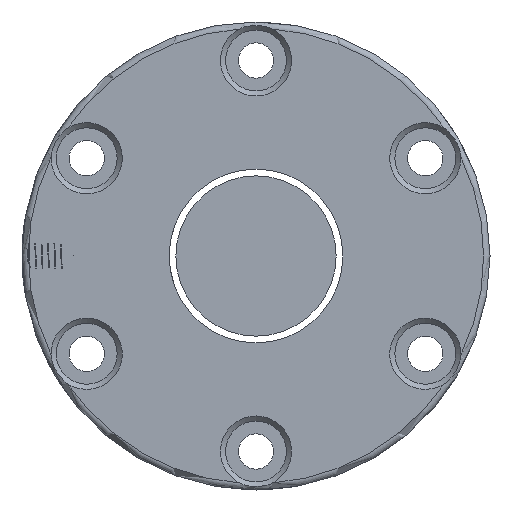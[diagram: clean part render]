
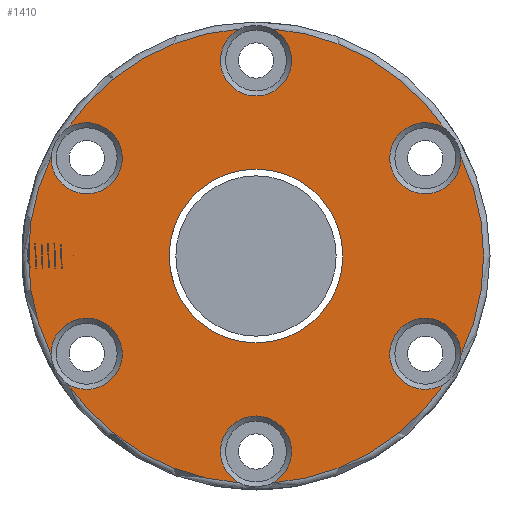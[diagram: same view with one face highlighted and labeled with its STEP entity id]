
A CAD part, left-side view. The second image highlights one B-rep face of the part: STEP entity #1410.
In plain terms, the highlighted planar face has unit normal (-1, 0, 0).
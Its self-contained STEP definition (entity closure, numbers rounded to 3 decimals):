
#11 = ORIENTED_EDGE ( 'NONE', *, *, #464, .T. ) ;
#21 = EDGE_CURVE ( 'NONE', #808, #1139, #2225, .T. ) ;
#86 = ORIENTED_EDGE ( 'NONE', *, *, #314, .T. ) ;
#93 = CARTESIAN_POINT ( 'NONE',  ( -55., -2.597, 35.405 ) ) ;
#160 = PLANE ( 'NONE',  #600 ) ;
#253 = DIRECTION ( 'NONE',  ( -1., 0., 0. ) ) ;
#314 = EDGE_CURVE ( 'NONE', #429, #2449, #319, .T. ) ;
#319 = CIRCLE ( 'NONE', #619, 5.55 ) ;
#351 = DIRECTION ( 'NONE',  ( 0., 0., 1. ) ) ;
#364 = EDGE_CURVE ( 'NONE', #2708, #670, #1935, .T. ) ;
#370 = DIRECTION ( 'NONE',  ( 0., 0., 1. ) ) ;
#377 = EDGE_LOOP ( 'NONE', ( #1014, #11, #2259, #1284, #2180, #1409, #86, #2125, #2987, #632, #2605, #3033 ) ) ;
#394 = FACE_BOUND ( 'NONE', #1324, .T. ) ;
#402 = EDGE_CURVE ( 'NONE', #1139, #1914, #2267, .T. ) ;
#413 = CARTESIAN_POINT ( 'NONE',  ( -55., 36.5, 0. ) ) ;
#429 = VERTEX_POINT ( 'NONE', #828 ) ;
#464 = EDGE_CURVE ( 'NONE', #1914, #2063, #2711, .T. ) ;
#492 = DIRECTION ( 'NONE',  ( 0., 0., -1. ) ) ;
#535 = DIRECTION ( 'NONE',  ( 1., 0., 0. ) ) ;
#573 = EDGE_CURVE ( 'NONE', #756, #3018, #1435, .T. ) ;
#588 = CARTESIAN_POINT ( 'NONE',  ( -55., 29.363, 19.952 ) ) ;
#600 = AXIS2_PLACEMENT_3D ( 'NONE', #413, #1118, #2083 ) ;
#604 = DIRECTION ( 'NONE',  ( 0., 0., 1. ) ) ;
#614 = VERTEX_POINT ( 'NONE', #2985 ) ;
#619 = AXIS2_PLACEMENT_3D ( 'NONE', #1572, #640, #351 ) ;
#624 = CARTESIAN_POINT ( 'NONE',  ( -55., 0., 0. ) ) ;
#632 = ORIENTED_EDGE ( 'NONE', *, *, #701, .T. ) ;
#640 = DIRECTION ( 'NONE',  ( 1., 0., 0. ) ) ;
#658 = CIRCLE ( 'NONE', #2113, 5.55 ) ;
#670 = VERTEX_POINT ( 'NONE', #1816 ) ;
#676 = AXIS2_PLACEMENT_3D ( 'NONE', #2564, #253, #2401 ) ;
#679 = AXIS2_PLACEMENT_3D ( 'NONE', #1929, #1883, #2372 ) ;
#701 = EDGE_CURVE ( 'NONE', #3018, #614, #1831, .T. ) ;
#704 = CARTESIAN_POINT ( 'NONE',  ( -55., -29.363, -19.952 ) ) ;
#756 = VERTEX_POINT ( 'NONE', #704 ) ;
#790 = CARTESIAN_POINT ( 'NONE',  ( -55., 0., -13.55 ) ) ;
#808 = VERTEX_POINT ( 'NONE', #2335 ) ;
#814 = DIRECTION ( 'NONE',  ( 0., 0., 1. ) ) ;
#828 = CARTESIAN_POINT ( 'NONE',  ( -55., 2.597, -35.405 ) ) ;
#866 = CARTESIAN_POINT ( 'NONE',  ( -55., 0., 0. ) ) ;
#883 = EDGE_CURVE ( 'NONE', #2449, #756, #1637, .T. ) ;
#904 = CIRCLE ( 'NONE', #2900, 5.55 ) ;
#920 = CARTESIAN_POINT ( 'NONE',  ( -55., 26.414, -15.25 ) ) ;
#973 = FACE_OUTER_BOUND ( 'NONE', #377, .T. ) ;
#990 = CARTESIAN_POINT ( 'NONE',  ( -55., -26.414, 15.25 ) ) ;
#1005 = CARTESIAN_POINT ( 'NONE',  ( -55., 26.414, 15.25 ) ) ;
#1014 = ORIENTED_EDGE ( 'NONE', *, *, #402, .T. ) ;
#1023 = AXIS2_PLACEMENT_3D ( 'NONE', #2727, #1556, #1672 ) ;
#1060 = DIRECTION ( 'NONE',  ( 1., 0., 0. ) ) ;
#1071 = DIRECTION ( 'NONE',  ( -1., 0., 0. ) ) ;
#1073 = DIRECTION ( 'NONE',  ( 1., 0., 0. ) ) ;
#1118 = DIRECTION ( 'NONE',  ( -1., 0., 0. ) ) ;
#1120 = AXIS2_PLACEMENT_3D ( 'NONE', #624, #2946, #814 ) ;
#1139 = VERTEX_POINT ( 'NONE', #93 ) ;
#1161 = AXIS2_PLACEMENT_3D ( 'NONE', #1005, #535, #1569 ) ;
#1192 = VERTEX_POINT ( 'NONE', #2057 ) ;
#1284 = ORIENTED_EDGE ( 'NONE', *, *, #364, .T. ) ;
#1324 = EDGE_LOOP ( 'NONE', ( #2277 ) ) ;
#1343 = DIRECTION ( 'NONE',  ( 0., 0., 1. ) ) ;
#1409 = ORIENTED_EDGE ( 'NONE', *, *, #1744, .T. ) ;
#1410 = ADVANCED_FACE ( 'NONE', ( #973, #394 ), #160, .T. ) ;
#1435 = CIRCLE ( 'NONE', #2760, 5.55 ) ;
#1450 = CARTESIAN_POINT ( 'NONE',  ( -55., -26.414, -15.25 ) ) ;
#1469 = CIRCLE ( 'NONE', #2500, 35.5 ) ;
#1514 = VERTEX_POINT ( 'NONE', #790 ) ;
#1518 = CIRCLE ( 'NONE', #1161, 5.55 ) ;
#1533 = AXIS2_PLACEMENT_3D ( 'NONE', #1776, #1060, #370 ) ;
#1537 = AXIS2_PLACEMENT_3D ( 'NONE', #866, #1071, #1343 ) ;
#1556 = DIRECTION ( 'NONE',  ( -1., 0., 0. ) ) ;
#1569 = DIRECTION ( 'NONE',  ( 0., 0., 1. ) ) ;
#1572 = CARTESIAN_POINT ( 'NONE',  ( -55., 0., -30.5 ) ) ;
#1637 = CIRCLE ( 'NONE', #679, 35.5 ) ;
#1672 = DIRECTION ( 'NONE',  ( 0., 0., 1. ) ) ;
#1716 = CARTESIAN_POINT ( 'NONE',  ( -55., 0., 0. ) ) ;
#1740 = CARTESIAN_POINT ( 'NONE',  ( -55., -2.597, -35.405 ) ) ;
#1744 = EDGE_CURVE ( 'NONE', #1192, #429, #1469, .T. ) ;
#1776 = CARTESIAN_POINT ( 'NONE',  ( -55., 0., 30.5 ) ) ;
#1796 = CARTESIAN_POINT ( 'NONE',  ( -55., 2.597, 35.405 ) ) ;
#1816 = CARTESIAN_POINT ( 'NONE',  ( -55., 31.96, -15.453 ) ) ;
#1831 = CIRCLE ( 'NONE', #1537, 35.5 ) ;
#1870 = AXIS2_PLACEMENT_3D ( 'NONE', #3068, #2880, #492 ) ;
#1883 = DIRECTION ( 'NONE',  ( -1., 0., 0. ) ) ;
#1885 = DIRECTION ( 'NONE',  ( 1., 0., 0. ) ) ;
#1914 = VERTEX_POINT ( 'NONE', #1796 ) ;
#1929 = CARTESIAN_POINT ( 'NONE',  ( -55., 0., 0. ) ) ;
#1934 = DIRECTION ( 'NONE',  ( 0., 0., 1. ) ) ;
#1935 = CIRCLE ( 'NONE', #1120, 35.5 ) ;
#2007 = EDGE_CURVE ( 'NONE', #614, #808, #658, .T. ) ;
#2055 = EDGE_CURVE ( 'NONE', #2063, #2708, #1518, .T. ) ;
#2057 = CARTESIAN_POINT ( 'NONE',  ( -55., 29.363, -19.952 ) ) ;
#2063 = VERTEX_POINT ( 'NONE', #588 ) ;
#2083 = DIRECTION ( 'NONE',  ( 0., 0., 1. ) ) ;
#2113 = AXIS2_PLACEMENT_3D ( 'NONE', #990, #1073, #604 ) ;
#2116 = CIRCLE ( 'NONE', #1870, 13.55 ) ;
#2125 = ORIENTED_EDGE ( 'NONE', *, *, #883, .T. ) ;
#2152 = EDGE_CURVE ( 'NONE', #670, #1192, #904, .T. ) ;
#2159 = CARTESIAN_POINT ( 'NONE',  ( -55., 31.96, 15.453 ) ) ;
#2162 = DIRECTION ( 'NONE',  ( 0., 0., 1. ) ) ;
#2180 = ORIENTED_EDGE ( 'NONE', *, *, #2152, .T. ) ;
#2225 = CIRCLE ( 'NONE', #676, 35.5 ) ;
#2259 = ORIENTED_EDGE ( 'NONE', *, *, #2055, .T. ) ;
#2267 = CIRCLE ( 'NONE', #1533, 5.55 ) ;
#2277 = ORIENTED_EDGE ( 'NONE', *, *, #2941, .T. ) ;
#2329 = CARTESIAN_POINT ( 'NONE',  ( -55., -31.96, -15.453 ) ) ;
#2335 = CARTESIAN_POINT ( 'NONE',  ( -55., -29.363, 19.952 ) ) ;
#2338 = DIRECTION ( 'NONE',  ( 0., 0., 1. ) ) ;
#2372 = DIRECTION ( 'NONE',  ( 0., 0., 1. ) ) ;
#2393 = DIRECTION ( 'NONE',  ( 1., 0., 0. ) ) ;
#2401 = DIRECTION ( 'NONE',  ( 0., 0., 1. ) ) ;
#2406 = DIRECTION ( 'NONE',  ( -1., 0., 0. ) ) ;
#2449 = VERTEX_POINT ( 'NONE', #1740 ) ;
#2500 = AXIS2_PLACEMENT_3D ( 'NONE', #1716, #2406, #2162 ) ;
#2564 = CARTESIAN_POINT ( 'NONE',  ( -55., 0., 0. ) ) ;
#2605 = ORIENTED_EDGE ( 'NONE', *, *, #2007, .T. ) ;
#2708 = VERTEX_POINT ( 'NONE', #2159 ) ;
#2711 = CIRCLE ( 'NONE', #1023, 35.5 ) ;
#2727 = CARTESIAN_POINT ( 'NONE',  ( -55., 0., 0. ) ) ;
#2760 = AXIS2_PLACEMENT_3D ( 'NONE', #1450, #2393, #1934 ) ;
#2880 = DIRECTION ( 'NONE',  ( 1., 0., 0. ) ) ;
#2900 = AXIS2_PLACEMENT_3D ( 'NONE', #920, #1885, #2338 ) ;
#2941 = EDGE_CURVE ( 'NONE', #1514, #1514, #2116, .T. ) ;
#2946 = DIRECTION ( 'NONE',  ( -1., 0., 0. ) ) ;
#2985 = CARTESIAN_POINT ( 'NONE',  ( -55., -31.96, 15.453 ) ) ;
#2987 = ORIENTED_EDGE ( 'NONE', *, *, #573, .T. ) ;
#3018 = VERTEX_POINT ( 'NONE', #2329 ) ;
#3033 = ORIENTED_EDGE ( 'NONE', *, *, #21, .T. ) ;
#3068 = CARTESIAN_POINT ( 'NONE',  ( -55., 0., 0. ) ) ;
